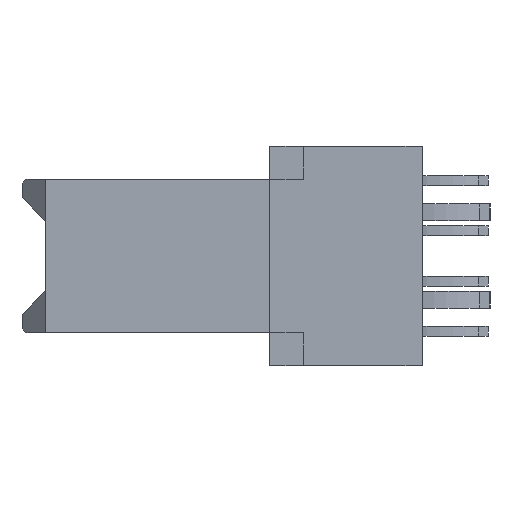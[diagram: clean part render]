
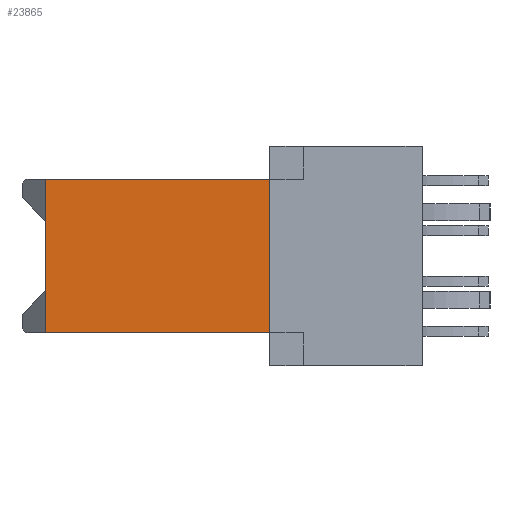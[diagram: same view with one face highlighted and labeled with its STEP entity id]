
A CAD part, left-side view. The second image highlights one B-rep face of the part: STEP entity #23865.
In plain terms, the highlighted planar face has unit normal (-1, 0, 0).
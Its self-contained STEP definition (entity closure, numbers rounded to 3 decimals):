
#225=DIRECTION('',(0.,-1.,0.));
#226=VECTOR('',#225,8.52);
#227=CARTESIAN_POINT('',(-82.655,8.52,-2.915));
#228=LINE('',#227,#226);
#681=DIRECTION('',(0.,-1.,0.));
#682=VECTOR('',#681,8.52);
#683=CARTESIAN_POINT('',(-82.655,8.52,2.915));
#684=LINE('',#683,#682);
#4657=DIRECTION('',(0.,0.,1.));
#4658=VECTOR('',#4657,5.83);
#4659=CARTESIAN_POINT('',(-82.655,0.,-2.915));
#4660=LINE('',#4659,#4658);
#4661=DIRECTION('',(0.,0.,-1.));
#4662=VECTOR('',#4661,1.6);
#4663=CARTESIAN_POINT('',(-82.655,8.52,-1.315));
#4664=LINE('',#4663,#4662);
#4665=DIRECTION('',(0.,0.,-1.));
#4666=VECTOR('',#4665,2.63);
#4667=CARTESIAN_POINT('',(-82.655,8.52,1.315));
#4668=LINE('',#4667,#4666);
#4669=DIRECTION('',(0.,0.,-1.));
#4670=VECTOR('',#4669,1.6);
#4671=CARTESIAN_POINT('',(-82.655,8.52,2.915));
#4672=LINE('',#4671,#4670);
#13265=CARTESIAN_POINT('',(-82.655,8.52,-1.315));
#13266=CARTESIAN_POINT('',(-82.655,8.52,-2.915));
#13267=VERTEX_POINT('',#13265);
#13268=VERTEX_POINT('',#13266);
#13285=CARTESIAN_POINT('',(-82.655,8.52,1.315));
#13286=VERTEX_POINT('',#13285);
#13303=CARTESIAN_POINT('',(-82.655,8.52,2.915));
#13304=VERTEX_POINT('',#13303);
#13513=CARTESIAN_POINT('',(-82.655,0.,-2.915));
#13514=CARTESIAN_POINT('',(-82.655,0.,2.915));
#13515=VERTEX_POINT('',#13513);
#13516=VERTEX_POINT('',#13514);
#23849=CARTESIAN_POINT('',(-82.655,9.42,-2.915));
#23850=DIRECTION('',(-1.,0.,0.));
#23851=DIRECTION('',(0.,-1.,0.));
#23852=AXIS2_PLACEMENT_3D('',#23849,#23850,#23851);
#23853=PLANE('',#23852);
#23854=ORIENTED_EDGE('',*,*,#23825,.F.);
#23855=ORIENTED_EDGE('',*,*,#17231,.F.);
#23857=ORIENTED_EDGE('',*,*,#23856,.F.);
#23859=ORIENTED_EDGE('',*,*,#23858,.F.);
#23861=ORIENTED_EDGE('',*,*,#23860,.F.);
#23862=ORIENTED_EDGE('',*,*,#17842,.T.);
#23863=EDGE_LOOP('',(#23854,#23855,#23857,#23859,#23861,#23862));
#23864=FACE_OUTER_BOUND('',#23863,.F.);
#23865=ADVANCED_FACE('',(#23864),#23853,.T.);
#17231=EDGE_CURVE('',#13268,#13515,#228,.T.);
#17842=EDGE_CURVE('',#13304,#13516,#684,.T.);
#23825=EDGE_CURVE('',#13515,#13516,#4660,.T.);
#23856=EDGE_CURVE('',#13267,#13268,#4664,.T.);
#23858=EDGE_CURVE('',#13286,#13267,#4668,.T.);
#23860=EDGE_CURVE('',#13304,#13286,#4672,.T.);
